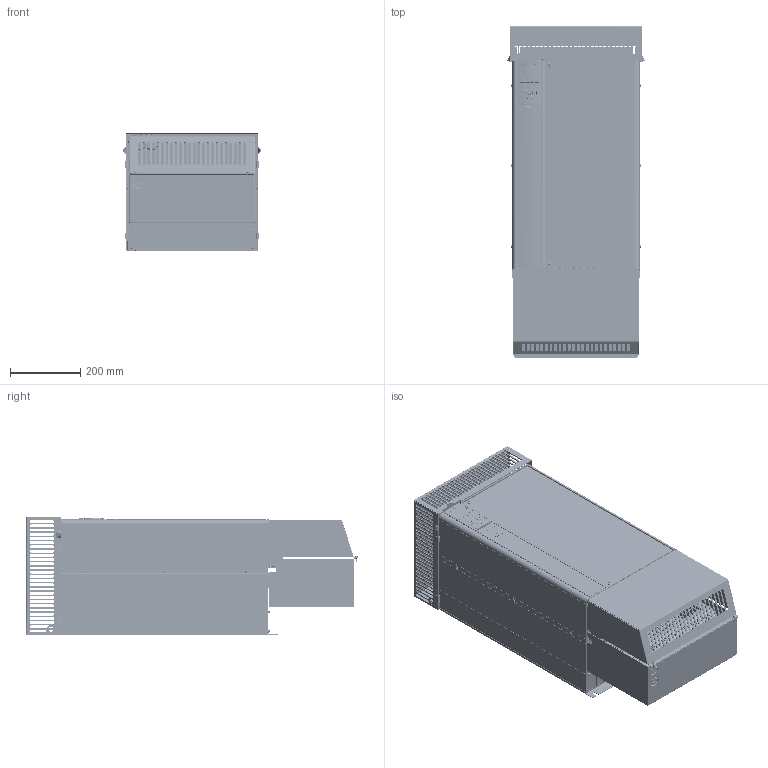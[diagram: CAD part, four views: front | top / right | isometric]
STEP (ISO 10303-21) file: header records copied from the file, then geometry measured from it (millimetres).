
FILE_DESCRIPTION((''),'2;1');
FILE_NAME('DANFOSS-FC300-C4-NEMA1-KIT-202','2008-10-23T',('Abhilash.Paramesh'),('Danfoss Drives A/S'),'PRO/ENGINEER BY PARAMETRIC TECHNOLOGY CORPORATION, 2007160','PRO/ENGINEER BY PARAMETRIC TECHNOLOGY CORPORATION, 2007160','');
FILE_SCHEMA(('CONFIG_CONTROL_DESIGN', 'GEOMETRIC_VALIDATION_PROPERTIES_MIM'));
Products named in the file (1): DANFOSS-FC300-C4-NEMA1-KIT-202
Bounding box: 391.93 x 946.75 x 337 mm (x, y, z)
Volume: 70469339.3 mm3; surface area: 2949581 mm2
Topology: 1 solids, 30 shells, 6875 faces, 19160 edges, 12316 vertices
Faces by surface type: plane 3470, cylinder 2211, bspline 668, extrusion 175, torus 153, cone 108, sphere 90
Entity records: 347624 total; most frequent: CARTESIAN_POINT 145928, ORIENTED_EDGE 38136, DIRECTION 31790, EDGE_CURVE 19068, VERTEX_POINT 12316, VECTOR 11418, LINE 11243, AXIS2_PLACEMENT_3D 10186
